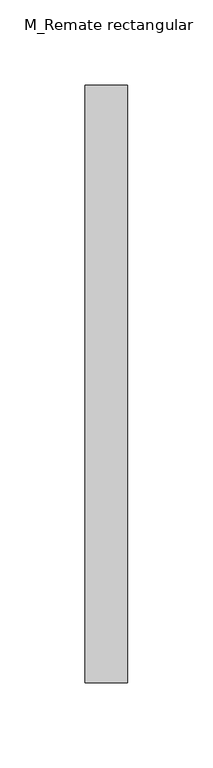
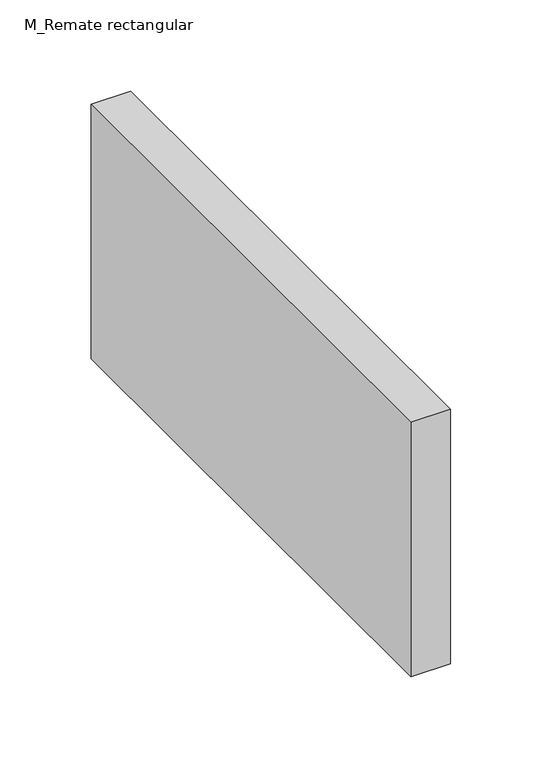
"""IFC4 building model written with IfcOpenShell, lengths in millimetres: duct fitting geometry, M_Remate rectangular : Estándar."""

from ifc_helpers import new_model, si_unit, frame, origin, place, context, project, spatial, polyline, outline, extrude, source, transform, mapped, element, save


def m_remate_rectangular_079afb6b(model_context):
    return source(origin(), model_context, "Body", "SweptSolid", [
        extrude(outline(polyline([(0.0, -175.0), (0.0, 175.0), (25.0, 175.0), (25.0, -175.0), (0.0, -175.0)])), frame((0.0, 0.0, -85.0), z_axis=(0.0, 0.0, 1.0), x_axis=(1.0, 0.0, 0.0)), (0.0, 0.0, 1.0), 170.0),
    ])


if __name__ == "__main__":
    model = new_model("IFC4")
    model_context = context("Model", 3, world=origin())
    ifc_project = project(units=[si_unit("LENGTHUNIT", "METRE", prefix="MILLI")], contexts=[model_context])
    site = spatial("IfcSite", under=ifc_project)
    building = spatial("IfcBuilding", under=site)
    placement = place(None, origin())
    m_remate_rectangular_shape = m_remate_rectangular_079afb6b(model_context)
    element("IfcDuctFitting", 1, ObjectType="M_Remate rectangular : Estándar", at=placement, inside=building, context=model_context, shape_type="MappedRepresentation", body=[
        mapped(m_remate_rectangular_shape, transform((0.0, 0.0, 0.0), x_axis=(1.0, 0.0, 0.0), y_axis=(0.0, 1.0, 0.0), z_axis=(0.0, 0.0, 1.0))),
    ])
    save(model, "model.ifc")
